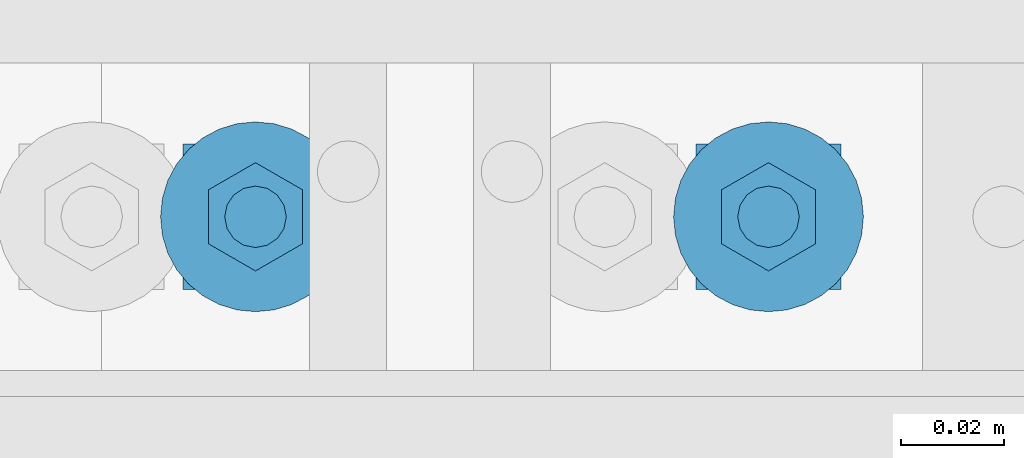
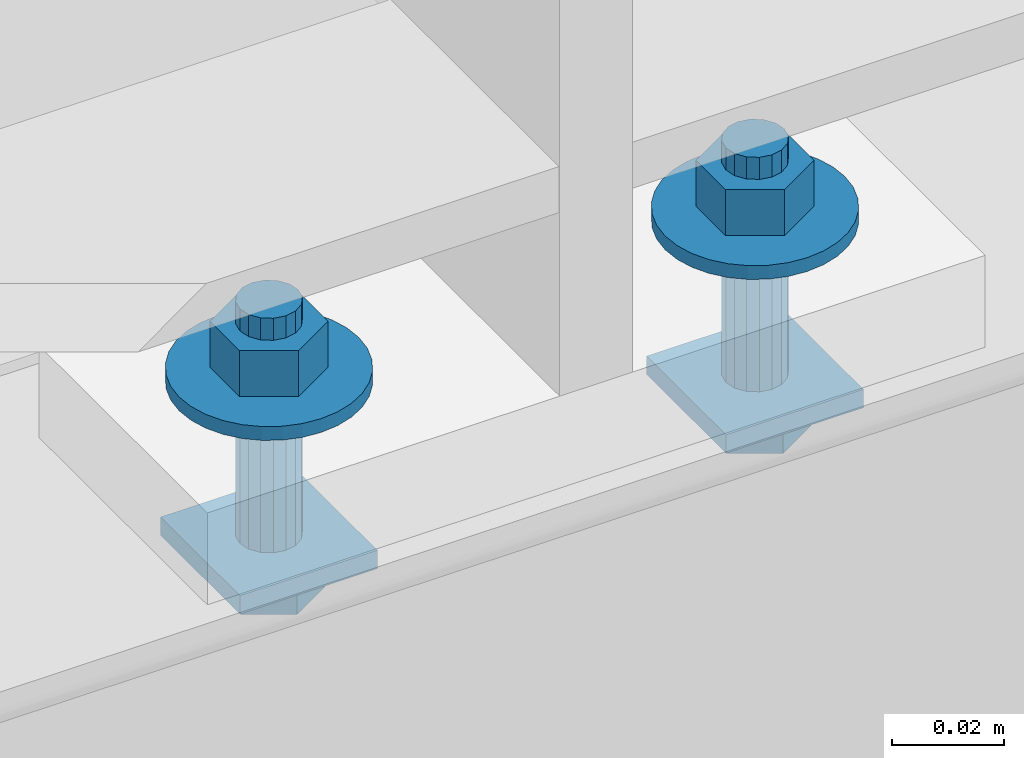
# One storey, part 264 of 817: 1 mechanical fastener.
"""IFC2X3 building model written with IfcOpenShell, lengths in millimetres."""

from ifc_helpers import new_model, entity, si_unit, converted_unit, origin_with_axes, place, context, project, spatial, faceted_brep, element, save


model = new_model("IFC2X3")

# Units and contexts
model_context = context("Model", 3, precision=1e-09, world=origin_with_axes())
ifc_project = project(units=[si_unit("LENGTHUNIT", "METRE", prefix="MILLI"), si_unit("AREAUNIT", "SQUARE_METRE"), si_unit("VOLUMEUNIT", "CUBIC_METRE"), converted_unit("PLANEANGLEUNIT", "DEGREE", entity("IfcPlaneAngleMeasure", 0.01745329), si_unit("PLANEANGLEUNIT", "RADIAN"), dimensions=[0, 0, 0, 0, 0, 0, 0])], contexts=[model_context])

# Site, building, storey
site_placement = place(None, origin_with_axes())
site = spatial("IfcSite", under=ifc_project, at=site_placement, Name="Cnopf'sche Kinderklinik", CompositionType="ELEMENT")
building_placement = place(site_placement, origin_with_axes())
building = spatial("IfcBuilding", under=site, at=building_placement, Name="Struktur 1", CompositionType="ELEMENT")
storey_placement = place(building_placement, origin_with_axes())
storey = spatial("IfcBuildingStorey", under=building, at=storey_placement, Name="Default Storey", CompositionType="ELEMENT", Elevation=0.0)

# Mechanical fastener
mechanical_fastener_placement = place(None, origin_with_axes())
element("IfcMechanicalFastener", 1, at=mechanical_fastener_placement, inside=storey, ObjectType="Bolt#512", NominalDiameter=12.0, NominalLength=55.0, context=model_context, shape_type="Brep", body=[
    faceted_brep([(4345.649553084, 4540.879107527, 9934.797304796), (4345.649553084, 4540.879107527, 9938.797304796), (4373.933824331, 4540.879107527, 9938.797304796), (4373.933824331, 4540.879107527, 9934.797304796), (4373.933824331, 4512.59483628, 9938.797304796), (4373.933824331, 4512.59483628, 9934.797304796), (4345.649553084, 4512.59483628, 9938.797304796), (4345.649553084, 4512.59483628, 9934.797304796)], [[[0, 1, 2, 3]], [[3, 2, 4, 5]], [[5, 4, 6, 7]], [[7, 6, 1, 0]], [[3, 5, 7, 0]], [[2, 1, 6, 4]]]),
    faceted_brep([(4445.649553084, 4540.879107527, 9934.797304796), (4445.649553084, 4540.879107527, 9938.797304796), (4473.933824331, 4540.879107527, 9938.797304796), (4473.933824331, 4540.879107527, 9934.797304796), (4473.933824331, 4512.59483628, 9938.797304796), (4473.933824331, 4512.59483628, 9934.797304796), (4445.649553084, 4512.59483628, 9938.797304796), (4445.649553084, 4512.59483628, 9934.797304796)], [[[0, 1, 2, 3]], [[3, 2, 4, 5]], [[5, 4, 6, 7]], [[7, 6, 1, 0]], [[3, 5, 7, 0]], [[2, 1, 6, 4]]]),
    faceted_brep([(4351.118444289, 4531.744471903, 9927.297304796), (4351.118444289, 4531.744471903, 9934.797304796), (4359.791688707, 4536.751971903, 9934.797304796), (4359.791688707, 4536.751971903, 9927.297304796), (4368.464933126, 4531.744471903, 9934.797304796), (4368.464933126, 4531.744471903, 9927.297304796), (4368.464933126, 4521.729471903, 9934.797304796), (4368.464933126, 4521.729471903, 9927.297304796), (4359.791688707, 4516.721971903, 9934.797304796), (4359.791688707, 4516.721971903, 9927.297304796), (4351.118444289, 4521.729471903, 9934.797304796), (4351.118444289, 4521.729471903, 9927.297304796)], [[[0, 1, 2, 3]], [[3, 2, 4, 5]], [[5, 4, 6, 7]], [[7, 6, 8, 9]], [[9, 8, 10, 11]], [[11, 10, 1, 0]], [[3, 5, 7, 9, 11, 0]], [[2, 1, 10, 8, 6, 4]]]),
    faceted_brep([(4451.118444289, 4531.744471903, 9927.297304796), (4451.118444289, 4531.744471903, 9934.797304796), (4459.791688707, 4536.751971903, 9934.797304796), (4459.791688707, 4536.751971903, 9927.297304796), (4468.464933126, 4531.744471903, 9934.797304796), (4468.464933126, 4531.744471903, 9927.297304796), (4468.464933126, 4521.729471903, 9934.797304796), (4468.464933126, 4521.729471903, 9927.297304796), (4459.791688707, 4516.721971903, 9934.797304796), (4459.791688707, 4516.721971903, 9927.297304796), (4451.118444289, 4521.729471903, 9934.797304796), (4451.118444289, 4521.729471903, 9927.297304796)], [[[0, 1, 2, 3]], [[3, 2, 4, 5]], [[5, 4, 6, 7]], [[7, 6, 8, 9]], [[9, 8, 10, 11]], [[11, 10, 1, 0]], [[3, 5, 7, 9, 11, 0]], [[2, 1, 10, 8, 6, 4]]]),
    faceted_brep([(4365.791688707, 4526.736971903, 9972.0), (4365.791688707, 4526.736971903, 9938.797304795), (4365.334965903, 4529.033072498, 9938.797304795), (4365.334965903, 4529.033072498, 9972.0), (4364.034329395, 4530.97961259, 9938.797304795), (4364.034329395, 4530.97961259, 9972.0), (4362.087789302, 4532.280249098, 9938.797304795), (4362.087789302, 4532.280249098, 9972.0), (4359.791688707, 4532.736971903, 9938.797304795), (4359.791688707, 4532.736971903, 9972.0), (4357.495588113, 4532.280249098, 9938.797304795), (4357.495588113, 4532.280249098, 9972.0), (4355.54904802, 4530.97961259, 9938.797304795), (4355.54904802, 4530.97961259, 9972.0), (4354.248411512, 4529.033072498, 9938.797304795), (4354.248411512, 4529.033072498, 9972.0), (4353.791688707, 4526.736971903, 9938.797304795), (4353.791688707, 4526.736971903, 9972.0), (4354.248411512, 4524.440871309, 9938.797304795), (4354.248411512, 4524.440871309, 9972.0), (4355.54904802, 4522.494331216, 9938.797304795), (4355.54904802, 4522.494331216, 9972.0), (4357.495588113, 4521.193694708, 9938.797304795), (4357.495588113, 4521.193694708, 9972.0), (4359.791688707, 4520.736971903, 9938.797304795), (4359.791688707, 4520.736971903, 9972.0), (4362.087789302, 4521.193694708, 9938.797304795), (4362.087789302, 4521.193694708, 9972.0), (4364.034329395, 4522.494331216, 9938.797304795), (4364.034329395, 4522.494331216, 9972.0), (4365.334965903, 4524.440871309, 9938.797304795), (4365.334965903, 4524.440871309, 9972.0)], [[[0, 1, 2, 3]], [[3, 2, 4, 5]], [[5, 4, 6, 7]], [[7, 6, 8, 9]], [[9, 8, 10, 11]], [[11, 10, 12, 13]], [[13, 12, 14, 15]], [[15, 14, 16, 17]], [[17, 16, 18, 19]], [[19, 18, 20, 21]], [[21, 20, 22, 23]], [[23, 22, 24, 25]], [[25, 24, 26, 27]], [[27, 26, 28, 29]], [[29, 28, 30, 31]], [[31, 30, 1, 0]], [[2, 1, 30, 28, 26, 24, 22, 20, 18, 16, 14, 12, 10, 8, 6, 4]], [[31, 0, 3, 5, 7, 9, 11, 13, 15, 17, 19, 21, 23, 25, 27, 29]]]),
    faceted_brep([(4465.791688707, 4526.736971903, 9972.0), (4465.791688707, 4526.736971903, 9938.797304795), (4465.334965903, 4529.033072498, 9938.797304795), (4465.334965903, 4529.033072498, 9972.0), (4464.034329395, 4530.97961259, 9938.797304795), (4464.034329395, 4530.97961259, 9972.0), (4462.087789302, 4532.280249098, 9938.797304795), (4462.087789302, 4532.280249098, 9972.0), (4459.791688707, 4532.736971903, 9938.797304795), (4459.791688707, 4532.736971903, 9972.0), (4457.495588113, 4532.280249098, 9938.797304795), (4457.495588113, 4532.280249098, 9972.0), (4455.54904802, 4530.97961259, 9938.797304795), (4455.54904802, 4530.97961259, 9972.0), (4454.248411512, 4529.033072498, 9938.797304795), (4454.248411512, 4529.033072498, 9972.0), (4453.791688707, 4526.736971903, 9938.797304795), (4453.791688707, 4526.736971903, 9972.0), (4454.248411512, 4524.440871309, 9938.797304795), (4454.248411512, 4524.440871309, 9972.0), (4455.54904802, 4522.494331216, 9938.797304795), (4455.54904802, 4522.494331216, 9972.0), (4457.495588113, 4521.193694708, 9938.797304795), (4457.495588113, 4521.193694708, 9972.0), (4459.791688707, 4520.736971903, 9938.797304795), (4459.791688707, 4520.736971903, 9972.0), (4462.087789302, 4521.193694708, 9938.797304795), (4462.087789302, 4521.193694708, 9972.0), (4464.034329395, 4522.494331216, 9938.797304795), (4464.034329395, 4522.494331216, 9972.0), (4465.334965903, 4524.440871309, 9938.797304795), (4465.334965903, 4524.440871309, 9972.0)], [[[0, 1, 2, 3]], [[3, 2, 4, 5]], [[5, 4, 6, 7]], [[7, 6, 8, 9]], [[9, 8, 10, 11]], [[11, 10, 12, 13]], [[13, 12, 14, 15]], [[15, 14, 16, 17]], [[17, 16, 18, 19]], [[19, 18, 20, 21]], [[21, 20, 22, 23]], [[23, 22, 24, 25]], [[25, 24, 26, 27]], [[27, 26, 28, 29]], [[29, 28, 30, 31]], [[31, 30, 1, 0]], [[2, 1, 30, 28, 26, 24, 22, 20, 18, 16, 14, 12, 10, 8, 6, 4]], [[31, 0, 3, 5, 7, 9, 11, 13, 15, 17, 19, 21, 23, 25, 27, 29]]]),
    faceted_brep([(4378.291688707, 4526.736971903, 9975.0), (4378.291688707, 4526.736971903, 9972.0), (4377.936216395, 4530.346142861, 9972.0), (4377.936216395, 4530.346142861, 9975.0), (4376.883460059, 4533.816615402, 9972.0), (4376.883460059, 4533.816615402, 9975.0), (4375.173876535, 4537.015021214, 9972.0), (4375.173876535, 4537.015021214, 9975.0), (4372.873164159, 4539.818447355, 9972.0), (4372.873164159, 4539.818447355, 9975.0), (4370.069738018, 4542.119159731, 9972.0), (4370.069738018, 4542.119159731, 9975.0), (4366.871332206, 4543.828743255, 9972.0), (4366.871332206, 4543.828743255, 9975.0), (4363.400859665, 4544.881499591, 9972.0), (4363.400859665, 4544.881499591, 9975.0), (4359.791688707, 4545.236971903, 9972.0), (4359.791688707, 4545.236971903, 9975.0), (4356.18251775, 4544.881499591, 9972.0), (4356.18251775, 4544.881499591, 9975.0), (4352.712045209, 4543.828743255, 9972.0), (4352.712045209, 4543.828743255, 9975.0), (4349.513639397, 4542.119159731, 9972.0), (4349.513639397, 4542.119159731, 9975.0), (4346.710213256, 4539.818447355, 9972.0), (4346.710213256, 4539.818447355, 9975.0), (4344.40950088, 4537.015021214, 9972.0), (4344.40950088, 4537.015021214, 9975.0), (4342.699917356, 4533.816615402, 9972.0), (4342.699917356, 4533.816615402, 9975.0), (4341.64716102, 4530.346142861, 9972.0), (4341.64716102, 4530.346142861, 9975.0), (4341.291688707, 4526.736971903, 9972.0), (4341.291688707, 4526.736971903, 9975.0), (4341.64716102, 4523.127800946, 9972.0), (4341.64716102, 4523.127800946, 9975.0), (4342.699917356, 4519.657328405, 9972.0), (4342.699917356, 4519.657328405, 9975.0), (4344.40950088, 4516.458922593, 9972.0), (4344.40950088, 4516.458922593, 9975.0), (4346.710213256, 4513.655496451, 9972.0), (4346.710213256, 4513.655496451, 9975.0), (4349.513639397, 4511.354784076, 9972.0), (4349.513639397, 4511.354784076, 9975.0), (4352.712045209, 4509.645200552, 9972.0), (4352.712045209, 4509.645200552, 9975.0), (4356.18251775, 4508.592444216, 9972.0), (4356.18251775, 4508.592444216, 9975.0), (4359.791688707, 4508.236971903, 9972.0), (4359.791688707, 4508.236971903, 9975.0), (4363.400859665, 4508.592444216, 9972.0), (4363.400859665, 4508.592444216, 9975.0), (4366.871332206, 4509.645200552, 9972.0), (4366.871332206, 4509.645200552, 9975.0), (4370.069738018, 4511.354784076, 9972.0), (4370.069738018, 4511.354784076, 9975.0), (4372.873164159, 4513.655496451, 9972.0), (4372.873164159, 4513.655496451, 9975.0), (4375.173876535, 4516.458922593, 9972.0), (4375.173876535, 4516.458922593, 9975.0), (4376.883460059, 4519.657328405, 9972.0), (4376.883460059, 4519.657328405, 9975.0), (4377.936216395, 4523.127800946, 9972.0), (4377.936216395, 4523.127800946, 9975.0)], [[[0, 1, 2, 3]], [[3, 2, 4, 5]], [[5, 4, 6, 7]], [[7, 6, 8, 9]], [[9, 8, 10, 11]], [[11, 10, 12, 13]], [[13, 12, 14, 15]], [[15, 14, 16, 17]], [[17, 16, 18, 19]], [[19, 18, 20, 21]], [[21, 20, 22, 23]], [[23, 22, 24, 25]], [[25, 24, 26, 27]], [[27, 26, 28, 29]], [[29, 28, 30, 31]], [[31, 30, 32, 33]], [[33, 32, 34, 35]], [[35, 34, 36, 37]], [[37, 36, 38, 39]], [[39, 38, 40, 41]], [[41, 40, 42, 43]], [[43, 42, 44, 45]], [[45, 44, 46, 47]], [[47, 46, 48, 49]], [[49, 48, 50, 51]], [[51, 50, 52, 53]], [[53, 52, 54, 55]], [[55, 54, 56, 57]], [[57, 56, 58, 59]], [[59, 58, 60, 61]], [[61, 60, 62, 63]], [[63, 62, 1, 0]], [[2, 1, 62, 60, 58, 56, 54, 52, 50, 48, 46, 44, 42, 40, 38, 36, 34, 32, 30, 28, 26, 24, 22, 20, 18, 16, 14, 12, 10, 8, 6, 4]], [[63, 0, 3, 5, 7, 9, 11, 13, 15, 17, 19, 21, 23, 25, 27, 29, 31, 33, 35, 37, 39, 41, 43, 45, 47, 49, 51, 53, 55, 57, 59, 61]]]),
    faceted_brep([(4478.291688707, 4526.736971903, 9975.0), (4478.291688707, 4526.736971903, 9972.0), (4477.936216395, 4530.346142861, 9972.0), (4477.936216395, 4530.346142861, 9975.0), (4476.883460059, 4533.816615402, 9972.0), (4476.883460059, 4533.816615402, 9975.0), (4475.173876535, 4537.015021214, 9972.0), (4475.173876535, 4537.015021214, 9975.0), (4472.873164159, 4539.818447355, 9972.0), (4472.873164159, 4539.818447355, 9975.0), (4470.069738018, 4542.119159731, 9972.0), (4470.069738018, 4542.119159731, 9975.0), (4466.871332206, 4543.828743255, 9972.0), (4466.871332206, 4543.828743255, 9975.0), (4463.400859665, 4544.881499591, 9972.0), (4463.400859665, 4544.881499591, 9975.0), (4459.791688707, 4545.236971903, 9972.0), (4459.791688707, 4545.236971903, 9975.0), (4456.18251775, 4544.881499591, 9972.0), (4456.18251775, 4544.881499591, 9975.0), (4452.712045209, 4543.828743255, 9972.0), (4452.712045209, 4543.828743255, 9975.0), (4449.513639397, 4542.119159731, 9972.0), (4449.513639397, 4542.119159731, 9975.0), (4446.710213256, 4539.818447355, 9972.0), (4446.710213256, 4539.818447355, 9975.0), (4444.40950088, 4537.015021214, 9972.0), (4444.40950088, 4537.015021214, 9975.0), (4442.699917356, 4533.816615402, 9972.0), (4442.699917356, 4533.816615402, 9975.0), (4441.64716102, 4530.346142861, 9972.0), (4441.64716102, 4530.346142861, 9975.0), (4441.291688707, 4526.736971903, 9972.0), (4441.291688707, 4526.736971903, 9975.0), (4441.64716102, 4523.127800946, 9972.0), (4441.64716102, 4523.127800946, 9975.0), (4442.699917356, 4519.657328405, 9972.0), (4442.699917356, 4519.657328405, 9975.0), (4444.40950088, 4516.458922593, 9972.0), (4444.40950088, 4516.458922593, 9975.0), (4446.710213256, 4513.655496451, 9972.0), (4446.710213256, 4513.655496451, 9975.0), (4449.513639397, 4511.354784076, 9972.0), (4449.513639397, 4511.354784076, 9975.0), (4452.712045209, 4509.645200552, 9972.0), (4452.712045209, 4509.645200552, 9975.0), (4456.18251775, 4508.592444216, 9972.0), (4456.18251775, 4508.592444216, 9975.0), (4459.791688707, 4508.236971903, 9972.0), (4459.791688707, 4508.236971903, 9975.0), (4463.400859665, 4508.592444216, 9972.0), (4463.400859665, 4508.592444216, 9975.0), (4466.871332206, 4509.645200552, 9972.0), (4466.871332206, 4509.645200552, 9975.0), (4470.069738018, 4511.354784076, 9972.0), (4470.069738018, 4511.354784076, 9975.0), (4472.873164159, 4513.655496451, 9972.0), (4472.873164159, 4513.655496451, 9975.0), (4475.173876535, 4516.458922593, 9972.0), (4475.173876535, 4516.458922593, 9975.0), (4476.883460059, 4519.657328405, 9972.0), (4476.883460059, 4519.657328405, 9975.0), (4477.936216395, 4523.127800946, 9972.0), (4477.936216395, 4523.127800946, 9975.0)], [[[0, 1, 2, 3]], [[3, 2, 4, 5]], [[5, 4, 6, 7]], [[7, 6, 8, 9]], [[9, 8, 10, 11]], [[11, 10, 12, 13]], [[13, 12, 14, 15]], [[15, 14, 16, 17]], [[17, 16, 18, 19]], [[19, 18, 20, 21]], [[21, 20, 22, 23]], [[23, 22, 24, 25]], [[25, 24, 26, 27]], [[27, 26, 28, 29]], [[29, 28, 30, 31]], [[31, 30, 32, 33]], [[33, 32, 34, 35]], [[35, 34, 36, 37]], [[37, 36, 38, 39]], [[39, 38, 40, 41]], [[41, 40, 42, 43]], [[43, 42, 44, 45]], [[45, 44, 46, 47]], [[47, 46, 48, 49]], [[49, 48, 50, 51]], [[51, 50, 52, 53]], [[53, 52, 54, 55]], [[55, 54, 56, 57]], [[57, 56, 58, 59]], [[59, 58, 60, 61]], [[61, 60, 62, 63]], [[63, 62, 1, 0]], [[2, 1, 62, 60, 58, 56, 54, 52, 50, 48, 46, 44, 42, 40, 38, 36, 34, 32, 30, 28, 26, 24, 22, 20, 18, 16, 14, 12, 10, 8, 6, 4]], [[63, 0, 3, 5, 7, 9, 11, 13, 15, 17, 19, 21, 23, 25, 27, 29, 31, 33, 35, 37, 39, 41, 43, 45, 47, 49, 51, 53, 55, 57, 59, 61]]]),
    faceted_brep([(4350.655120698, 4532.011971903, 9975.0), (4350.655120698, 4532.011971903, 9985.0), (4359.791688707, 4537.286971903, 9985.0), (4359.791688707, 4537.286971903, 9975.0), (4368.928256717, 4532.011971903, 9985.0), (4368.928256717, 4532.011971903, 9975.0), (4368.928256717, 4521.461971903, 9985.0), (4368.928256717, 4521.461971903, 9975.0), (4359.791688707, 4516.186971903, 9985.0), (4359.791688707, 4516.186971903, 9975.0), (4350.655120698, 4521.461971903, 9985.0), (4350.655120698, 4521.461971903, 9975.0)], [[[0, 1, 2, 3]], [[3, 2, 4, 5]], [[5, 4, 6, 7]], [[7, 6, 8, 9]], [[9, 8, 10, 11]], [[11, 10, 1, 0]], [[3, 5, 7, 9, 11, 0]], [[2, 1, 10, 8, 6, 4]]]),
    faceted_brep([(4450.655120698, 4532.011971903, 9975.0), (4450.655120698, 4532.011971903, 9985.0), (4459.791688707, 4537.286971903, 9985.0), (4459.791688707, 4537.286971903, 9975.0), (4468.928256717, 4532.011971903, 9985.0), (4468.928256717, 4532.011971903, 9975.0), (4468.928256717, 4521.461971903, 9985.0), (4468.928256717, 4521.461971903, 9975.0), (4459.791688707, 4516.186971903, 9985.0), (4459.791688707, 4516.186971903, 9975.0), (4450.655120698, 4521.461971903, 9985.0), (4450.655120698, 4521.461971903, 9975.0)], [[[0, 1, 2, 3]], [[3, 2, 4, 5]], [[5, 4, 6, 7]], [[7, 6, 8, 9]], [[9, 8, 10, 11]], [[11, 10, 1, 0]], [[3, 5, 7, 9, 11, 0]], [[2, 1, 10, 8, 6, 4]]]),
    faceted_brep([(4365.791688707, 4526.736971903, 9989.797304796), (4365.791688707, 4526.736971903, 9985.000000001), (4365.334965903, 4529.033072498, 9985.000000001), (4365.334965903, 4529.033072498, 9989.797304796), (4364.034329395, 4530.97961259, 9985.000000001), (4364.034329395, 4530.97961259, 9989.797304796), (4362.087789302, 4532.280249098, 9985.000000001), (4362.087789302, 4532.280249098, 9989.797304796), (4359.791688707, 4532.736971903, 9985.000000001), (4359.791688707, 4532.736971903, 9989.797304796), (4357.495588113, 4532.280249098, 9985.000000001), (4357.495588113, 4532.280249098, 9989.797304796), (4355.54904802, 4530.97961259, 9985.000000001), (4355.54904802, 4530.97961259, 9989.797304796), (4354.248411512, 4529.033072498, 9985.000000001), (4354.248411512, 4529.033072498, 9989.797304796), (4353.791688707, 4526.736971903, 9985.000000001), (4353.791688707, 4526.736971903, 9989.797304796), (4354.248411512, 4524.440871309, 9985.000000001), (4354.248411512, 4524.440871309, 9989.797304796), (4355.54904802, 4522.494331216, 9985.000000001), (4355.54904802, 4522.494331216, 9989.797304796), (4357.495588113, 4521.193694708, 9985.000000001), (4357.495588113, 4521.193694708, 9989.797304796), (4359.791688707, 4520.736971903, 9985.000000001), (4359.791688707, 4520.736971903, 9989.797304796), (4362.087789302, 4521.193694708, 9985.000000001), (4362.087789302, 4521.193694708, 9989.797304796), (4364.034329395, 4522.494331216, 9985.000000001), (4364.034329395, 4522.494331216, 9989.797304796), (4365.334965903, 4524.440871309, 9985.000000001), (4365.334965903, 4524.440871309, 9989.797304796)], [[[0, 1, 2, 3]], [[3, 2, 4, 5]], [[5, 4, 6, 7]], [[7, 6, 8, 9]], [[9, 8, 10, 11]], [[11, 10, 12, 13]], [[13, 12, 14, 15]], [[15, 14, 16, 17]], [[17, 16, 18, 19]], [[19, 18, 20, 21]], [[21, 20, 22, 23]], [[23, 22, 24, 25]], [[25, 24, 26, 27]], [[27, 26, 28, 29]], [[29, 28, 30, 31]], [[31, 30, 1, 0]], [[2, 1, 30, 28, 26, 24, 22, 20, 18, 16, 14, 12, 10, 8, 6, 4]], [[31, 0, 3, 5, 7, 9, 11, 13, 15, 17, 19, 21, 23, 25, 27, 29]]]),
    faceted_brep([(4465.791688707, 4526.736971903, 9989.797304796), (4465.791688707, 4526.736971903, 9985.000000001), (4465.334965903, 4529.033072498, 9985.000000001), (4465.334965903, 4529.033072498, 9989.797304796), (4464.034329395, 4530.97961259, 9985.000000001), (4464.034329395, 4530.97961259, 9989.797304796), (4462.087789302, 4532.280249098, 9985.000000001), (4462.087789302, 4532.280249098, 9989.797304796), (4459.791688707, 4532.736971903, 9985.000000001), (4459.791688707, 4532.736971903, 9989.797304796), (4457.495588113, 4532.280249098, 9985.000000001), (4457.495588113, 4532.280249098, 9989.797304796), (4455.54904802, 4530.97961259, 9985.000000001), (4455.54904802, 4530.97961259, 9989.797304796), (4454.248411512, 4529.033072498, 9985.000000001), (4454.248411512, 4529.033072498, 9989.797304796), (4453.791688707, 4526.736971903, 9985.000000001), (4453.791688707, 4526.736971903, 9989.797304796), (4454.248411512, 4524.440871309, 9985.000000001), (4454.248411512, 4524.440871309, 9989.797304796), (4455.54904802, 4522.494331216, 9985.000000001), (4455.54904802, 4522.494331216, 9989.797304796), (4457.495588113, 4521.193694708, 9985.000000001), (4457.495588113, 4521.193694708, 9989.797304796), (4459.791688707, 4520.736971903, 9985.000000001), (4459.791688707, 4520.736971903, 9989.797304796), (4462.087789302, 4521.193694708, 9985.000000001), (4462.087789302, 4521.193694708, 9989.797304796), (4464.034329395, 4522.494331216, 9985.000000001), (4464.034329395, 4522.494331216, 9989.797304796), (4465.334965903, 4524.440871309, 9985.000000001), (4465.334965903, 4524.440871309, 9989.797304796)], [[[0, 1, 2, 3]], [[3, 2, 4, 5]], [[5, 4, 6, 7]], [[7, 6, 8, 9]], [[9, 8, 10, 11]], [[11, 10, 12, 13]], [[13, 12, 14, 15]], [[15, 14, 16, 17]], [[17, 16, 18, 19]], [[19, 18, 20, 21]], [[21, 20, 22, 23]], [[23, 22, 24, 25]], [[25, 24, 26, 27]], [[27, 26, 28, 29]], [[29, 28, 30, 31]], [[31, 30, 1, 0]], [[2, 1, 30, 28, 26, 24, 22, 20, 18, 16, 14, 12, 10, 8, 6, 4]], [[31, 0, 3, 5, 7, 9, 11, 13, 15, 17, 19, 21, 23, 25, 27, 29]]]),
])

save(model, "model.ifc")
